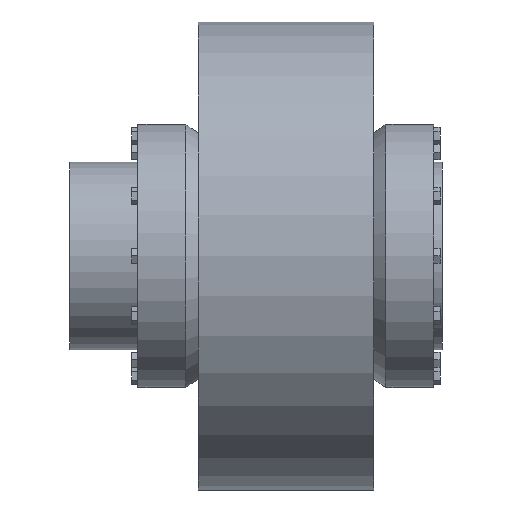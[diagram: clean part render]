
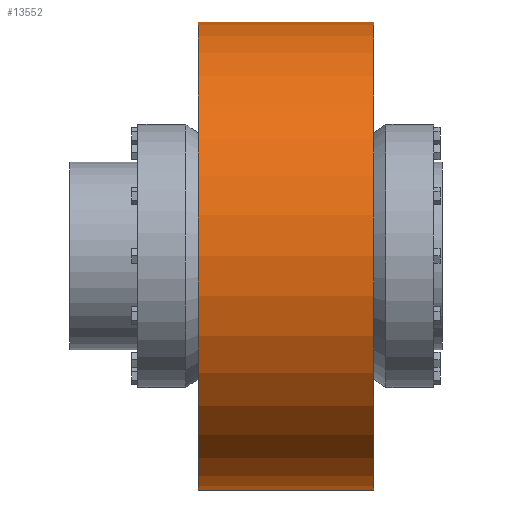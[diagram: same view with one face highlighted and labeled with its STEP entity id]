
A CAD part, top view. The second image highlights one B-rep face of the part: STEP entity #13552.
In plain terms, the highlighted cylindrical face has radius 200 mm (diameter 400 mm), a partial arc.
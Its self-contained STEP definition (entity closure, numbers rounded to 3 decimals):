
#13304=CARTESIAN_POINT('',(75.,0.,0.));
#13305=DIRECTION('',(1.,0.,0.));
#13306=DIRECTION('',(0.,1.,0.));
#13307=AXIS2_PLACEMENT_3D('',#13304,#13305,#13306);
#13309=DIRECTION('',(-1.,0.,0.));
#13310=VECTOR('',#13309,150.);
#13311=CARTESIAN_POINT('',(75.,200.,0.));
#13312=LINE('',#13311,#13310);
#13313=DIRECTION('',(-1.,0.,0.));
#13314=VECTOR('',#13313,150.);
#13315=CARTESIAN_POINT('',(75.,-200.,0.));
#13316=LINE('',#13315,#13314);
#13327=CARTESIAN_POINT('',(-75.,0.,0.));
#13328=DIRECTION('',(1.,0.,0.));
#13329=DIRECTION('',(0.,1.,0.));
#13330=AXIS2_PLACEMENT_3D('',#13327,#13328,#13329);
#13384=CARTESIAN_POINT('',(75.,200.,0.));
#13385=CARTESIAN_POINT('',(-75.,200.,0.));
#13386=VERTEX_POINT('',#13384);
#13387=VERTEX_POINT('',#13385);
#13392=CARTESIAN_POINT('',(75.,-200.,0.));
#13393=CARTESIAN_POINT('',(-75.,-200.,0.));
#13394=VERTEX_POINT('',#13392);
#13395=VERTEX_POINT('',#13393);
#13538=CARTESIAN_POINT('',(-82.5,0.,0.));
#13539=DIRECTION('',(1.,0.,0.));
#13540=DIRECTION('',(0.,-1.,0.));
#13541=AXIS2_PLACEMENT_3D('',#13538,#13539,#13540);
#13542=CYLINDRICAL_SURFACE('',#13541,200.);
#13544=ORIENTED_EDGE('',*,*,#13543,.F.);
#13545=ORIENTED_EDGE('',*,*,#13527,.T.);
#13547=ORIENTED_EDGE('',*,*,#13546,.T.);
#13549=ORIENTED_EDGE('',*,*,#13548,.F.);
#13550=EDGE_LOOP('',(#13544,#13545,#13547,#13549));
#13551=FACE_OUTER_BOUND('',#13550,.F.);
#13552=ADVANCED_FACE('',(#13551),#13542,.T.);
#13308=CIRCLE('',#13307,200.);
#13331=CIRCLE('',#13330,200.);
#13527=EDGE_CURVE('',#13386,#13394,#13308,.T.);
#13543=EDGE_CURVE('',#13386,#13387,#13312,.T.);
#13546=EDGE_CURVE('',#13394,#13395,#13316,.T.);
#13548=EDGE_CURVE('',#13387,#13395,#13331,.T.);
